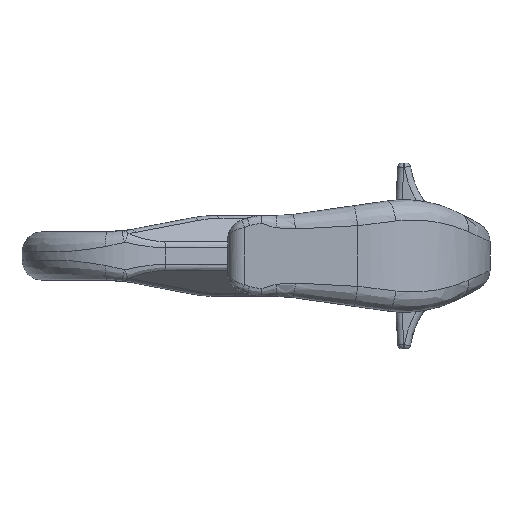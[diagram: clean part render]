
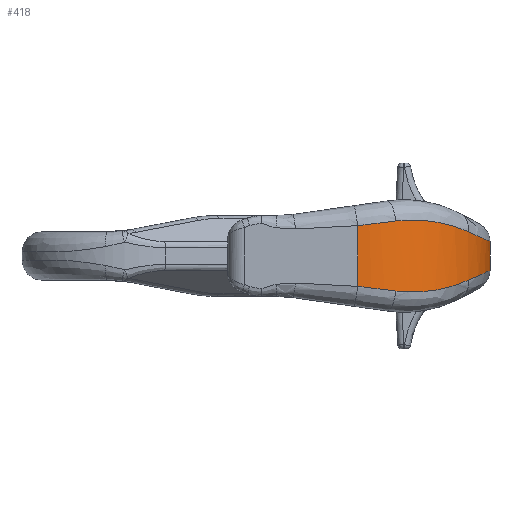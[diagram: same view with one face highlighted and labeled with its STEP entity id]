
A CAD part, front view. The second image highlights one B-rep face of the part: STEP entity #418.
In plain terms, the highlighted cylindrical face has radius 34 mm (diameter 68 mm), a partial arc.
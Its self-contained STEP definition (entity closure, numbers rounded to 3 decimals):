
#418=ADVANCED_FACE('',(#711),#656,.T.);
#656=CYLINDRICAL_SURFACE('',#3771,34.);
#711=FACE_OUTER_BOUND('',#956,.T.);
#956=EDGE_LOOP('',(#1761,#1762,#1763,#1764,#1765,#1766,#1767,#1768));
#1206=LINE('',#5424,#1291);
#1207=LINE('',#5540,#1292);
#1291=VECTOR('',#4051,1.);
#1292=VECTOR('',#4054,1.);
#1435=B_SPLINE_CURVE_WITH_KNOTS('',3,(#5506,#5507,#5508,#5509,#5510,#5511,
#5512,#5513,#5514,#5515,#5516,#5517,#5518,#5519,#5520,#5521,#5522,#5523,
#5524,#5525,#5526),.UNSPECIFIED.,.F.,.F.,(4,2,2,2,2,2,2,1,2,2,4),(0.,0.25,
0.375,0.438,0.5,0.625,0.687,0.719,
0.734,0.75,1.),.UNSPECIFIED.);
#1436=B_SPLINE_CURVE_WITH_KNOTS('',3,(#5529,#5530,#5531,#5532,#5533,#5534,
#5535,#5536,#5537,#5538),.UNSPECIFIED.,.F.,.F.,(4,2,2,2,4),(0.,0.25,0.375,
0.5,1.),.UNSPECIFIED.);
#1437=B_SPLINE_CURVE_WITH_KNOTS('',3,(#5542,#5543,#5544,#5545,#5546,#5547,
#5548,#5549,#5550,#5551),.UNSPECIFIED.,.F.,.F.,(4,2,2,2,4),(0.,0.5,0.625,
0.75,1.),.UNSPECIFIED.);
#1438=B_SPLINE_CURVE_WITH_KNOTS('',3,(#5553,#5554,#5555,#5556,#5557,#5558,
#5559,#5560,#5561,#5562,#5563,#5564,#5565,#5566,#5567,#5568,#5569,#5570,
#5571,#5572,#5573),.UNSPECIFIED.,.F.,.F.,(4,2,2,1,2,2,2,2,2,2,4),(0.,0.25,
0.266,0.281,0.313,0.375,
0.5,0.563,0.625,0.75,1.),.UNSPECIFIED.);
#1439=B_SPLINE_CURVE_WITH_KNOTS('',3,(#5575,#5576,#5577,#5578,#5579,#5580,
#5581,#5582,#5583,#5584,#5585,#5586,#5587,#5588,#5589,#5590,#5591,#5592),
 .UNSPECIFIED.,.F.,.F.,(4,2,2,2,2,2,2,2,4),(0.,0.5,0.625,0.75,0.766,
0.781,0.813,0.875,1.),.UNSPECIFIED.);
#1440=B_SPLINE_CURVE_WITH_KNOTS('',3,(#5593,#5594,#5595,#5596,#5597,#5598,
#5599,#5600,#5601,#5602,#5603,#5604,#5605,#5606,#5607,#5608,#5609,#5610),
 .UNSPECIFIED.,.F.,.F.,(4,2,2,2,2,2,2,2,4),(0.,0.125,0.188,0.219,0.234,
0.25,0.375,0.5,1.),.UNSPECIFIED.);
#1761=ORIENTED_EDGE('',*,*,#3239,.T.);
#1762=ORIENTED_EDGE('',*,*,#3240,.T.);
#1763=ORIENTED_EDGE('',*,*,#3241,.T.);
#1764=ORIENTED_EDGE('',*,*,#3242,.T.);
#1765=ORIENTED_EDGE('',*,*,#3243,.T.);
#1766=ORIENTED_EDGE('',*,*,#3244,.T.);
#1767=ORIENTED_EDGE('',*,*,#3230,.F.);
#1768=ORIENTED_EDGE('',*,*,#3245,.T.);
#2891=VERTEX_POINT('',#5423);
#2892=VERTEX_POINT('',#5425);
#2899=VERTEX_POINT('',#5527);
#2900=VERTEX_POINT('',#5528);
#2901=VERTEX_POINT('',#5539);
#2902=VERTEX_POINT('',#5541);
#2903=VERTEX_POINT('',#5552);
#2904=VERTEX_POINT('',#5574);
#3230=EDGE_CURVE('',#2891,#2892,#1206,.T.);
#3239=EDGE_CURVE('',#2899,#2900,#1435,.T.);
#3240=EDGE_CURVE('',#2900,#2901,#1436,.T.);
#3241=EDGE_CURVE('',#2901,#2902,#1207,.T.);
#3242=EDGE_CURVE('',#2902,#2903,#1437,.T.);
#3243=EDGE_CURVE('',#2903,#2904,#1438,.T.);
#3244=EDGE_CURVE('',#2904,#2892,#1439,.T.);
#3245=EDGE_CURVE('',#2891,#2899,#1440,.T.);
#3771=AXIS2_PLACEMENT_3D('',#5611,#4055,#4056);
#4051=DIRECTION('',(0.,0.,1.));
#4054=DIRECTION('',(0.,0.,1.));
#4055=DIRECTION('',(0.,0.,1.));
#4056=DIRECTION('',(1.,0.,0.));
#5423=CARTESIAN_POINT('',(-2.762,-33.977,-7.514));
#5424=CARTESIAN_POINT('',(-2.762,-33.977,-17.));
#5425=CARTESIAN_POINT('',(-2.762,-33.977,7.514));
#5506=CARTESIAN_POINT('',(6.716,-32.267,-8.666));
#5507=CARTESIAN_POINT('',(8.296,-31.742,-8.859));
#5508=CARTESIAN_POINT('',(9.91,-31.077,-8.94));
#5509=CARTESIAN_POINT('',(12.333,-29.834,-8.893));
#5510=CARTESIAN_POINT('',(13.14,-29.379,-8.849));
#5511=CARTESIAN_POINT('',(14.344,-28.631,-8.741));
#5512=CARTESIAN_POINT('',(14.745,-28.37,-8.699));
#5513=CARTESIAN_POINT('',(15.541,-27.828,-8.599));
#5514=CARTESIAN_POINT('',(15.97,-27.521,-8.537));
#5515=CARTESIAN_POINT('',(17.054,-26.712,-8.361));
#5516=CARTESIAN_POINT('',(17.789,-26.119,-8.217));
#5517=CARTESIAN_POINT('',(18.898,-25.138,-7.961));
#5518=CARTESIAN_POINT('',(19.268,-24.796,-7.869));
#5519=CARTESIAN_POINT('',(19.823,-24.26,-7.721));
#5520=CARTESIAN_POINT('',(20.1,-23.985,-7.644));
#5521=CARTESIAN_POINT('',(20.377,-23.702,-7.564));
#5522=CARTESIAN_POINT('',(20.561,-23.511,-7.509));
#5523=CARTESIAN_POINT('',(20.679,-23.387,-7.474));
#5524=CARTESIAN_POINT('',(21.81,-22.187,-7.128));
#5525=CARTESIAN_POINT('',(23.19,-20.585,-6.641));
#5526=CARTESIAN_POINT('',(24.622,-18.352,-5.991));
#5527=CARTESIAN_POINT('',(6.716,-32.267,-8.666));
#5528=CARTESIAN_POINT('',(24.622,-18.352,-5.991));
#5529=CARTESIAN_POINT('',(24.622,-18.352,-5.991));
#5530=CARTESIAN_POINT('',(25.504,-16.976,-5.591));
#5531=CARTESIAN_POINT('',(26.278,-15.551,-5.241));
#5532=CARTESIAN_POINT('',(27.273,-13.366,-4.789));
#5533=CARTESIAN_POINT('',(27.577,-12.63,-4.651));
#5534=CARTESIAN_POINT('',(28.13,-11.147,-4.4));
#5535=CARTESIAN_POINT('',(28.369,-10.437,-4.292));
#5536=CARTESIAN_POINT('',(29.534,-6.501,-3.764));
#5537=CARTESIAN_POINT('',(30.,-3.239,-3.552));
#5538=CARTESIAN_POINT('',(30.,0.,-3.552));
#5539=CARTESIAN_POINT('',(30.,0.,-3.552));
#5540=CARTESIAN_POINT('',(30.,0.,-17.));
#5541=CARTESIAN_POINT('',(30.,0.,3.552));
#5542=CARTESIAN_POINT('',(30.,0.,3.552));
#5543=CARTESIAN_POINT('',(30.,-3.239,3.552));
#5544=CARTESIAN_POINT('',(29.534,-6.501,3.764));
#5545=CARTESIAN_POINT('',(28.369,-10.437,4.292));
#5546=CARTESIAN_POINT('',(28.13,-11.147,4.4));
#5547=CARTESIAN_POINT('',(27.577,-12.63,4.651));
#5548=CARTESIAN_POINT('',(27.273,-13.366,4.789));
#5549=CARTESIAN_POINT('',(26.278,-15.551,5.241));
#5550=CARTESIAN_POINT('',(25.504,-16.976,5.591));
#5551=CARTESIAN_POINT('',(24.622,-18.352,5.991));
#5552=CARTESIAN_POINT('',(24.622,-18.352,5.991));
#5553=CARTESIAN_POINT('',(24.622,-18.352,5.991));
#5554=CARTESIAN_POINT('',(23.19,-20.585,6.641));
#5555=CARTESIAN_POINT('',(21.81,-22.187,7.128));
#5556=CARTESIAN_POINT('',(20.679,-23.387,7.474));
#5557=CARTESIAN_POINT('',(20.561,-23.511,7.509));
#5558=CARTESIAN_POINT('',(20.377,-23.702,7.564));
#5559=CARTESIAN_POINT('',(20.1,-23.985,7.644));
#5560=CARTESIAN_POINT('',(19.823,-24.26,7.721));
#5561=CARTESIAN_POINT('',(19.268,-24.796,7.869));
#5562=CARTESIAN_POINT('',(18.898,-25.138,7.961));
#5563=CARTESIAN_POINT('',(17.789,-26.119,8.217));
#5564=CARTESIAN_POINT('',(17.054,-26.712,8.361));
#5565=CARTESIAN_POINT('',(15.97,-27.521,8.537));
#5566=CARTESIAN_POINT('',(15.541,-27.828,8.599));
#5567=CARTESIAN_POINT('',(14.745,-28.37,8.699));
#5568=CARTESIAN_POINT('',(14.344,-28.631,8.741));
#5569=CARTESIAN_POINT('',(13.14,-29.379,8.849));
#5570=CARTESIAN_POINT('',(12.333,-29.834,8.893));
#5571=CARTESIAN_POINT('',(9.91,-31.077,8.94));
#5572=CARTESIAN_POINT('',(8.296,-31.742,8.859));
#5573=CARTESIAN_POINT('',(6.716,-32.267,8.666));
#5574=CARTESIAN_POINT('',(6.716,-32.267,8.666));
#5575=CARTESIAN_POINT('',(6.716,-32.267,8.666));
#5576=CARTESIAN_POINT('',(5.394,-32.706,8.505));
#5577=CARTESIAN_POINT('',(3.918,-33.107,8.325));
#5578=CARTESIAN_POINT('',(1.881,-33.49,8.077));
#5579=CARTESIAN_POINT('',(1.516,-33.552,8.033));
#5580=CARTESIAN_POINT('',(0.688,-33.678,7.932));
#5581=CARTESIAN_POINT('',(0.257,-33.736,7.879));
#5582=CARTESIAN_POINT('',(-0.249,-33.793,7.818));
#5583=CARTESIAN_POINT('',(-0.383,-33.807,7.801));
#5584=CARTESIAN_POINT('',(-0.564,-33.826,7.779));
#5585=CARTESIAN_POINT('',(-0.653,-33.835,7.769));
#5586=CARTESIAN_POINT('',(-0.909,-33.86,7.737));
#5587=CARTESIAN_POINT('',(-1.07,-33.874,7.718));
#5588=CARTESIAN_POINT('',(-1.52,-33.911,7.663));
#5589=CARTESIAN_POINT('',(-1.777,-33.928,7.632));
#5590=CARTESIAN_POINT('',(-2.42,-33.966,7.555));
#5591=CARTESIAN_POINT('',(-2.677,-33.974,7.524));
#5592=CARTESIAN_POINT('',(-2.762,-33.977,7.514));
#5593=CARTESIAN_POINT('',(-2.762,-33.977,-7.514));
#5594=CARTESIAN_POINT('',(-2.677,-33.974,-7.524));
#5595=CARTESIAN_POINT('',(-2.42,-33.966,-7.555));
#5596=CARTESIAN_POINT('',(-1.777,-33.928,-7.632));
#5597=CARTESIAN_POINT('',(-1.52,-33.911,-7.663));
#5598=CARTESIAN_POINT('',(-1.07,-33.874,-7.718));
#5599=CARTESIAN_POINT('',(-0.909,-33.86,-7.737));
#5600=CARTESIAN_POINT('',(-0.653,-33.835,-7.769));
#5601=CARTESIAN_POINT('',(-0.564,-33.826,-7.779));
#5602=CARTESIAN_POINT('',(-0.383,-33.807,-7.801));
#5603=CARTESIAN_POINT('',(-0.249,-33.793,-7.818));
#5604=CARTESIAN_POINT('',(0.257,-33.736,-7.879));
#5605=CARTESIAN_POINT('',(0.688,-33.678,-7.932));
#5606=CARTESIAN_POINT('',(1.516,-33.552,-8.033));
#5607=CARTESIAN_POINT('',(1.881,-33.49,-8.077));
#5608=CARTESIAN_POINT('',(3.918,-33.107,-8.325));
#5609=CARTESIAN_POINT('',(5.394,-32.706,-8.505));
#5610=CARTESIAN_POINT('',(6.716,-32.267,-8.666));
#5611=CARTESIAN_POINT('',(-4.,0.,-17.));
